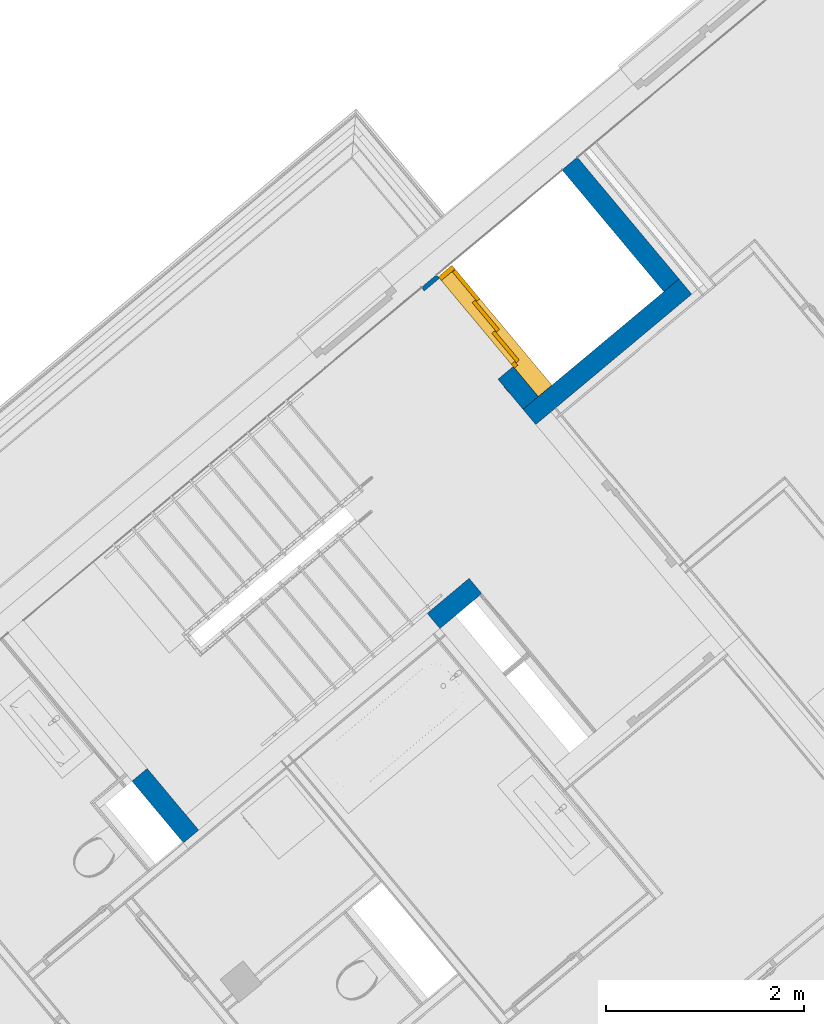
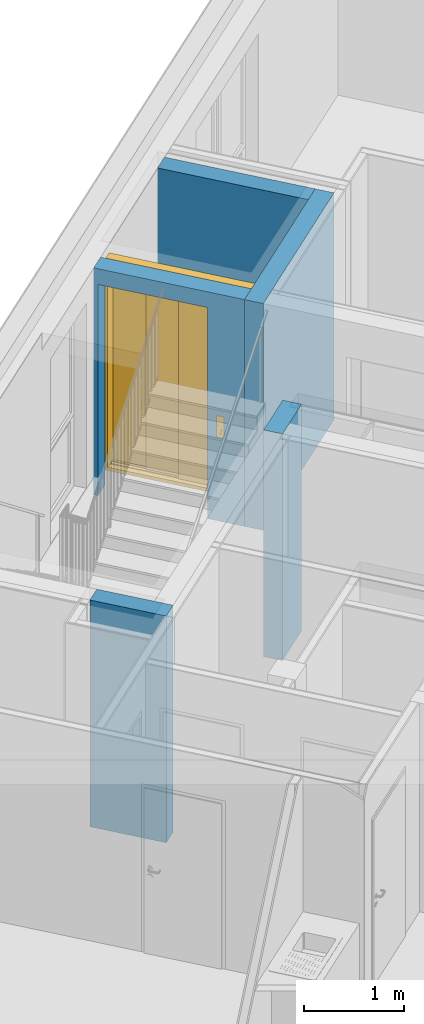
# One storey, part 1 of 50: 5 walls, 1 door, 1 opening.
"""IFC4 building model written with IfcOpenShell, lengths in metres."""

import ifcopenshell
import ifcopenshell.guid

model = None  # the IFC model being written
_history = None  # IfcOwnerHistory: only IFC2X3 demands one
_inside = {}  # id of a spatial element -> (the spatial element, [elements in it])
_under = {}  # id of a project, library or spatial element -> (it, [spatial elements below it])
_declared = {}  # id of a project -> (the project, [libraries it declares])
_typed = {}  # id of a type object -> (the type object, [elements of that type])
_made_of = {}  # id of a material, layer set ... -> (it, [elements and type objects made of it])


def new_model(schema):
    """Start an empty IFC model of exactly this schema.

    Asked for "IFC4X3", IfcOpenShell would pick the latest addendum, in which some entities
    have other attributes; the version numbers below select the first issue.
    IFC2X3 requires an IfcOwnerHistory on every rooted entity: one is made here for all.
    """
    global model, _history
    if schema == "IFC4X3":
        model = ifcopenshell.file(schema_version=(4, 3, 0, 0))
    else:
        model = ifcopenshell.file(schema=schema)
    _inside.clear()
    _under.clear()
    _declared.clear()
    _typed.clear()
    _made_of.clear()
    _history = None
    if model.schema == "IFC2X3":
        org = make("IfcOrganization", Name="unknown")
        user = make(
            "IfcPersonAndOrganization",
            ThePerson=make("IfcPerson", FamilyName="unknown"),
            TheOrganization=org,
        )
        app = make(
            "IfcApplication",
            ApplicationDeveloper=org,
            Version="unknown",
            ApplicationFullName="unknown",
            ApplicationIdentifier="unknown",
        )
        _history = make(
            "IfcOwnerHistory",
            OwningUser=user,
            OwningApplication=app,
            ChangeAction="ADDED",
            CreationDate=0,
        )
    return model


def make(cls, **values):
    """One entity of the class cls with the attributes given. An attribute that is None is left unset."""
    return model.create_entity(
        cls, **{name: value for name, value in values.items() if value is not None}
    )


def entity(cls, *values):
    """Any entity or typed value of the class cls, its attributes in the order of the schema. None: left unset."""
    e = model.create_entity(cls)
    for i, value in enumerate(values):
        if value is not None:
            e[i] = value
    return e


def rooted(cls, **values):
    """An entity with a GlobalId (a new one), such as an element, a storey or a relation."""
    return make(cls, GlobalId=ifcopenshell.guid.new(), OwnerHistory=_history, **values)


def si_unit(unit_type, name, prefix=None):
    """IfcSIUnit, for example si_unit("LENGTHUNIT", "METRE", prefix="MILLI")."""
    return make("IfcSIUnit", UnitType=unit_type, Prefix=prefix, Name=name)


def converted_unit(unit_type, name, factor, base, dimensions=None, offset=None):
    """IfcConversionBasedUnit, such as the inch: factor (a typed value) times the base unit."""
    return make(
        "IfcConversionBasedUnit"
        if offset is None
        else "IfcConversionBasedUnitWithOffset",
        ConversionOffset=offset,
        Dimensions=None
        if dimensions is None
        else entity("IfcDimensionalExponents", *dimensions),
        UnitType=unit_type,
        Name=name,
        ConversionFactor=make(
            "IfcMeasureWithUnit", ValueComponent=factor, UnitComponent=base
        ),
    )


def derived_unit(unit_type, elements):
    """IfcDerivedUnit: a product of units, each with its exponent."""
    return make(
        "IfcDerivedUnit",
        Elements=[
            make("IfcDerivedUnitElement", Unit=unit, Exponent=power)
            for unit, power in elements
        ],
        UnitType=unit_type,
    )


def assignment(units):
    """IfcUnitAssignment: the units of a project."""
    return None if units is None else make("IfcUnitAssignment", Units=units)


def point(xyz):
    """IfcCartesianPoint."""
    return None if xyz is None else make("IfcCartesianPoint", Coordinates=xyz)


def direction(xyz):
    """IfcDirection."""
    return None if xyz is None else make("IfcDirection", DirectionRatios=xyz)


def frame(location, z_axis=None, x_axis=None):
    """IfcAxis2Placement3D, a coordinate frame: its origin and axes. An axis left out is left unset."""
    return make(
        "IfcAxis2Placement3D",
        Location=point(location),
        Axis=direction(z_axis),
        RefDirection=direction(x_axis),
    )


def origin_with_axes():
    """The frame at (0, 0, 0) with the z axis (0, 0, 1) and the x axis (1, 0, 0) written out."""
    return frame((0.0, 0.0, 0.0), z_axis=(0.0, 0.0, 1.0), x_axis=(1.0, 0.0, 0.0))


def place(relative_to, where):
    """IfcLocalPlacement: puts the frame where relative to a parent placement (None: the world)."""
    return make(
        "IfcLocalPlacement", PlacementRelTo=relative_to, RelativePlacement=where
    )


def context(
    kind, dimensions, precision=None, world=None, true_north=None, identifier=None
):
    """IfcGeometricRepresentationContext, for example the 3D "Model" context."""
    return make(
        "IfcGeometricRepresentationContext",
        ContextIdentifier=identifier,
        ContextType=kind,
        CoordinateSpaceDimension=dimensions,
        Precision=precision,
        WorldCoordinateSystem=world,
        TrueNorth=true_north,
    )


def subcontext(parent, identifier, kind, view, scale=None):
    """IfcGeometricRepresentationSubContext, for example "Body" below "Model"."""
    return make(
        "IfcGeometricRepresentationSubContext",
        ContextIdentifier=identifier,
        ContextType=kind,
        ParentContext=parent,
        TargetScale=scale,
        TargetView=view,
    )


def project(units=None, contexts=None):
    """IfcProject with its units and contexts."""
    return rooted(
        "IfcProject",
        Name="project",
        RepresentationContexts=contexts,
        UnitsInContext=assignment(units),
    )


def spatial(cls, under=None, at=None, **own):
    """A site, building, storey or space (cls), placed at a placement, below another one or the project."""
    s = rooted(cls, ObjectPlacement=at, **own)
    if under is not None:
        _under.setdefault(under.id(), (under, []))[1].append(s)
    return s


def point_list(points):
    """IfcCartesianPointList2D or 3D."""
    cls = (
        "IfcCartesianPointList2D" if len(points[0]) == 2 else "IfcCartesianPointList3D"
    )
    return make(cls, CoordList=points)


def polygons(points, faces, closed=None, point_numbers=None):
    """IfcPolygonalFaceSet: a face is its outer loop, then its inner loops; points numbered from 1."""
    made = []
    for loops in faces:
        if len(loops) == 1:
            made.append(make("IfcIndexedPolygonalFace", CoordIndex=loops[0]))
        else:
            made.append(
                make(
                    "IfcIndexedPolygonalFaceWithVoids",
                    CoordIndex=loops[0],
                    InnerCoordIndices=loops[1:],
                )
            )
    return make(
        "IfcPolygonalFaceSet",
        Coordinates=point_list(points),
        Closed=closed,
        Faces=made,
        PnIndex=point_numbers,
    )


def shape(context_of_items, identifier, shape_type, items):
    """IfcShapeRepresentation: the items that make up one representation, for example the "Body"."""
    return make(
        "IfcShapeRepresentation",
        ContextOfItems=context_of_items,
        RepresentationIdentifier=identifier,
        RepresentationType=shape_type,
        Items=items,
    )


def source(mapping_origin, context_of_items, identifier, shape_type, items):
    """IfcRepresentationMap: a shape defined once, which mapped items show again and again."""
    return make(
        "IfcRepresentationMap",
        MappingOrigin=mapping_origin,
        MappedRepresentation=shape(context_of_items, identifier, shape_type, items),
    )


def transform(
    local_origin,
    x_axis=None,
    y_axis=None,
    z_axis=None,
    scale=None,
    scale2=None,
    scale3=None,
    uniform=True,
):
    """IfcCartesianTransformationOperator3D, or its non-uniform kind. x_axis, y_axis, z_axis: its Axis1, 2, 3."""
    if uniform:
        return make(
            "IfcCartesianTransformationOperator3D",
            Axis1=direction(x_axis),
            Axis2=direction(y_axis),
            LocalOrigin=point(local_origin),
            Scale=scale,
            Axis3=direction(z_axis),
        )
    return make(
        "IfcCartesianTransformationOperator3DnonUniform",
        Axis1=direction(x_axis),
        Axis2=direction(y_axis),
        LocalOrigin=point(local_origin),
        Scale=scale,
        Axis3=direction(z_axis),
        Scale2=scale2,
        Scale3=scale3,
    )


def mapped(mapping_source, mapping_target):
    """IfcMappedItem: shows the shape of a source again, moved by a transform."""
    return make(
        "IfcMappedItem", MappingSource=mapping_source, MappingTarget=mapping_target
    )


def material(Name=None, Category=None):
    """IfcMaterial."""
    return make("IfcMaterial", Name=Name, Category=Category)


def made_of(thing, what):
    """Note that an element or type object is made of a material, layer set ...; save() writes the relation."""
    if what is not None:
        _made_of.setdefault(what.id(), (what, []))[1].append(thing)
    return thing


def type_object(cls, material=None, **own):
    """A type object (cls), such as IfcWallType, which elements share."""
    return made_of(rooted(cls, **own), material)


def element(
    cls,
    number,
    at=None,
    inside=None,
    cuts=None,
    type_object=None,
    material=None,
    context=None,
    identifier="Body",
    shape_type=None,
    held_by="IfcProductDefinitionShape",
    body=None,
    shapes=None,
    **own,
):
    """One element of the class cls, such as IfcWall. Its Tag is "e" and its number.

    at: its placement. inside: the storey or other place that contains it. cuts: it is an
    opening in that element (IfcRelVoidsElement). A single representation is given by context,
    identifier, shape_type and body (its items); several are given by shapes. held_by: the class
    of the entity that holds the representations. save() writes the other relations.
    """
    e = rooted(cls, Tag="e%d" % number, ObjectPlacement=at, **own)
    if body is not None:
        shapes = [shape(context, identifier, shape_type, body)]
    if shapes is not None:
        e.Representation = make(held_by, Representations=shapes)
    if inside is not None:
        _inside.setdefault(inside.id(), (inside, []))[1].append(e)
    if cuts is not None:
        rooted(
            "IfcRelVoidsElement", RelatingBuildingElement=cuts, RelatedOpeningElement=e
        )
    if type_object is not None:
        _typed.setdefault(type_object.id(), (type_object, []))[1].append(e)
    return made_of(e, material)


def fill(opening, filler):
    """IfcRelFillsElement: the door or window that sits in an opening."""
    return rooted(
        "IfcRelFillsElement",
        RelatingOpeningElement=opening,
        RelatedBuildingElement=filler,
    )


def aggregate(whole, parts):
    """IfcRelAggregates: a whole, such as a stair, and the parts it consists of."""
    return rooted("IfcRelAggregates", RelatingObject=whole, RelatedObjects=parts)


def save(model, path):
    """Write the relations noted so far, then the file.

    IfcRelAggregates (storeys below a building ...), IfcRelContainedInSpatialStructure (elements
    in a storey), IfcRelDefinesByType, IfcRelAssociatesMaterial and IfcRelDeclares: one each for
    every whole, place, type object, material and project.
    """
    for whole, parts in _under.values():
        aggregate(whole, parts)
    for where, things in _inside.values():
        rooted(
            "IfcRelContainedInSpatialStructure",
            RelatedElements=things,
            RelatingStructure=where,
        )
    for kind, things in _typed.values():
        rooted("IfcRelDefinesByType", RelatedObjects=things, RelatingType=kind)
    for what, things in _made_of.values():
        rooted("IfcRelAssociatesMaterial", RelatedObjects=things, RelatingMaterial=what)
    for by, libraries in _declared.values():
        rooted("IfcRelDeclares", RelatingContext=by, RelatedDefinitions=libraries)
    model.write(path)


model = new_model("IFC4")

# Units and contexts
model_context = context("Model", 3, precision=1e-05, world=origin_with_axes(), true_north=direction((0.0, 1.0)))
body_context = subcontext(model_context, "Body", "Model", "MODEL_VIEW")
ifc_project = project(units=[si_unit("LENGTHUNIT", "METRE"), si_unit("AREAUNIT", "SQUARE_METRE"), si_unit("VOLUMEUNIT", "CUBIC_METRE"), converted_unit("PLANEANGLEUNIT", "DEGREE", entity("IfcPlaneAngleMeasure", 0.0174532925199), si_unit("PLANEANGLEUNIT", "RADIAN"), dimensions=[0, 0, 0, 0, 0, 0, 0]), converted_unit("TIMEUNIT", "Year", entity("IfcTimeMeasure", 31556926.0), si_unit("TIMEUNIT", "SECOND"), dimensions=[0, 0, 1, 0, 0, 0, 0]), si_unit("MASSUNIT", "GRAM", prefix="KILO"), si_unit("THERMODYNAMICTEMPERATUREUNIT", "DEGREE_CELSIUS"), si_unit("LUMINOUSINTENSITYUNIT", "LUMEN"), si_unit("ENERGYUNIT", "JOULE", prefix="MEGA"), derived_unit("THERMALCONDUCTANCEUNIT", [(si_unit("POWERUNIT", "WATT"), 1), (si_unit("LENGTHUNIT", "METRE"), -1), (si_unit("THERMODYNAMICTEMPERATUREUNIT", "KELVIN"), -1)]), derived_unit("SPECIFICHEATCAPACITYUNIT", [(si_unit("ENERGYUNIT", "JOULE"), 1), (si_unit("MASSUNIT", "GRAM", prefix="KILO"), -1), (si_unit("THERMODYNAMICTEMPERATUREUNIT", "KELVIN"), -1)]), derived_unit("MASSDENSITYUNIT", [(si_unit("MASSUNIT", "GRAM", prefix="KILO"), 1), (si_unit("VOLUMEUNIT", "CUBIC_METRE"), -1)])], contexts=[model_context])

# Site, building, storey
site_placement = place(None, frame((-0.00153261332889, -0.00661245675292, 0.0), z_axis=(0.0, 0.0, 1.0), x_axis=(1.0, 0.0, 0.0)))
site = spatial("IfcSite", under=ifc_project, at=site_placement, Name="Site", CompositionType="ELEMENT")
building_placement = place(site_placement, origin_with_axes())
building = spatial("IfcBuilding", under=site, at=building_placement, Name="Building", CompositionType="ELEMENT")
storey_placement = place(building_placement, frame((0.0, 0.0, 2.74), z_axis=(0.0, 0.0, 1.0), x_axis=(1.0, 0.0, 0.0)))
storey = spatial("IfcBuildingStorey", under=building, at=storey_placement, Name="OG1", CompositionType="ELEMENT", Elevation=2.74)

# Walls
ifc_material = material(Name="Stahlbeton Wand")
wall_type = type_object("IfcWallType", Name="Stahlbeton Wand 200", PredefinedType="NOTDEFINED")
wall_1_placement = place(storey_placement, frame((0.665404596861, 22.952518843, 0.0), z_axis=(0.0, 0.0, 1.0), x_axis=(-0.767365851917, -0.641209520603, 0.0)))
element("IfcWall", 1, at=wall_1_placement, inside=storey, type_object=wall_type, material=ifc_material, Name="Wand-003", PredefinedType="NOTDEFINED", context=body_context, shape_type="Tessellation", body=[
    polygons([(0.0, 0.2, 0.0), (0.55061386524, 0.2, 0.0), (0.55061386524, 0.0, 0.0), (0.0, 0.0, 0.0), (0.0, 0.2, 2.76), (0.55061386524, 0.2, 2.76), (0.55061386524, 0.0, 2.76), (0.0, 0.0, 2.76)], [[[1, 2, 3, 4]], [[5, 6, 2, 1]], [[3, 2, 6, 7]], [[4, 3, 7, 8]], [[5, 1, 4, 8]], [[8, 7, 6, 5]]], closed=True),
])
wall_2_placement = place(storey_placement, frame((-2.19006942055, 20.5664899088, 0.0), z_axis=(0.0, 0.0, 1.0), x_axis=(-0.641209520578, 0.767365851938, 0.0)))
element("IfcWall", 2, at=wall_2_placement, inside=storey, type_object=wall_type, material=ifc_material, Name="Wand-003", PredefinedType="NOTDEFINED", context=body_context, shape_type="Tessellation", body=[
    polygons([(-0.200000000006, 0.2, 0.0), (0.610381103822, 0.2, 0.0), (0.610381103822, 0.0, 0.0), (-0.2, 0.0, 0.0), (-0.200000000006, 0.2, 2.76), (0.610381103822, 0.2, 2.76), (0.610381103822, 0.0, 2.76), (-0.2, 0.0, 2.76)], [[[1, 2, 3, 4]], [[5, 6, 2, 1]], [[3, 2, 6, 7]], [[4, 3, 7, 8]], [[5, 1, 4, 8]], [[8, 7, 6, 5]]], closed=True),
])
wall_3_placement = place(storey_placement, frame((1.36278827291, 24.785276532, 0.0), z_axis=(0.0, 0.0, 1.0), x_axis=(0.767365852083, 0.641209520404, 0.0)))
element("IfcWall", 3, at=wall_3_placement, inside=storey, type_object=wall_type, material=ifc_material, Name="Wand-003", PredefinedType="NOTDEFINED", context=body_context, shape_type="Tessellation", body=[
    polygons([(1.85049975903, -0.2, 2.76), (1.85049975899, 0.0, 2.76), (-0.200000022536, 0.0, 2.76), (-0.200094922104, -0.2, 2.76), (1.85049975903, -0.2, 0.0), (1.85049975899, 0.0, 0.0), (-0.200000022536, 0.0, 0.0), (-0.200094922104, -0.2, 0.0)], [[[1, 2, 3, 4]], [[2, 1, 5, 6]], [[2, 6, 7, 3]], [[8, 4, 3, 7]], [[5, 1, 4, 8]], [[6, 5, 8, 7]]], closed=True),
])
wall_4_placement = place(storey_placement, frame((2.62932542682, 25.8435926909, 0.0), z_axis=(0.0, 0.0, 1.0), x_axis=(-0.641209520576, 0.767365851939, 0.0)))
element("IfcWall", 4, at=wall_4_placement, inside=storey, type_object=wall_type, material=ifc_material, Name="Wand-003", PredefinedType="NOTDEFINED", context=body_context, shape_type="Tessellation", body=[
    polygons([(1.60114424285, -0.2, 2.76), (1.60114424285, 0.0, 2.76), (0.0, 0.0, 2.76), (0.0, -0.2, 2.76), (1.60114424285, -0.2, 0.0), (1.60114424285, 0.0, 0.0), (0.0, 0.0, 0.0), (0.0, -0.2, 0.0)], [[[1, 2, 3, 4]], [[2, 1, 5, 6]], [[2, 6, 7, 3]], [[8, 4, 3, 7]], [[5, 1, 4, 8]], [[6, 5, 8, 7]]], closed=True),
])

# Wall, opening, door
wall_5_placement = place(storey_placement, frame((1.36278827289, 24.785276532, 0.0), z_axis=(0.0, 0.0, 1.0), x_axis=(-0.640845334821, 0.767670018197, 0.0)))
wall_5 = element("IfcWall", 5, at=wall_5_placement, inside=storey, type_object=wall_type, material=ifc_material, Name="Wand-003", PredefinedType="NOTDEFINED", context=body_context, shape_type="Tessellation", body=[
    polygons([(1.55499976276, 0.0, 2.57), (1.55499976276, 9.38576505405e-09, 0.22), (1.55499976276, 9.38576505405e-09, 0.0), (1.60114442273, 0.0, 0.0), (1.60114442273, 0.0, 2.76), (0.0, 0.0, 2.76), (0.0, 0.0, 0.0), (0.394999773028, 4.1292480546e-10, 0.0), (0.394999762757, 4.1292480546e-10, 0.22), (0.394999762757, 0.0, 2.57), (1.55499976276, 0.2, 2.57), (1.55499976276, 0.2, 0.22), (1.55499976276, 0.2, 0.0), (1.60104952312, 0.2, 0.0), (1.60104952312, 0.2, 2.76), (-9.48995682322e-05, 0.2, 2.76), (-9.48995682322e-05, 0.2, 0.0), (0.394999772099, 0.2, 0.0), (0.394999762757, 0.2, 0.22), (0.394999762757, 0.2, 2.57)], [[[1, 2, 3, 4, 5, 6, 7, 8, 9, 10]], [[2, 1, 11, 12]], [[2, 12, 13, 3]], [[3, 13, 14, 4]], [[4, 14, 15, 5]], [[5, 15, 16, 6]], [[16, 17, 7, 6]], [[18, 8, 7, 17]], [[19, 9, 8, 18]], [[10, 9, 19, 20]], [[1, 10, 20, 11]], [[20, 19, 18, 17, 16, 15, 14, 13, 12, 11]]], closed=True),
])
opening_placement = place(wall_5_placement, frame((0.974999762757, 0.0, 0.22), z_axis=(0.0, 0.0, 1.0), x_axis=(1.0, 0.0, 0.0)))
opening = element("IfcOpeningElement", 6, at=opening_placement, cuts=wall_5, Name="Tür-003", context=body_context, identifier="Reference", shape_type="Tessellation", body=[
    polygons([(0.58, 1.19285789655, 2.35), (0.58, 1.19285789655, -0.22), (-0.58, 1.19285789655, -0.22), (-0.58, 1.19285789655, 2.35), (0.58, -0.992857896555, 2.35), (0.58, -0.992857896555, -0.22), (-0.58, -0.992857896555, -0.22), (-0.58, -0.992857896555, 2.35)], [[[1, 2, 3, 4]], [[5, 6, 2, 1]], [[6, 7, 3, 2]], [[7, 8, 4, 3]], [[8, 5, 1, 4]], [[7, 6, 5, 8]]], closed=True),
])
door_type = type_object("IfcDoorType", Name="Teleskoptür 26", OperationType="DOUBLE_DOOR_SLIDING", PredefinedType="NOTDEFINED")
shared_shape = source(origin_with_axes(), body_context, "Body", "Tessellation", [
    polygons([(0.975, 0.135, 2.2), (-0.6, 0.135, 2.2), (-0.6, 0.135, 2.238), (0.975, 0.135, 2.238), (0.975, 0.0, 2.2), (-0.6, 0.0, 2.2), (-0.6, 0.0, 2.48), (-0.6, 0.18, 2.48), (-0.6, 0.18, 2.477), (-0.6, 0.003, 2.477), (-0.6, 0.003, 2.203), (-0.6, 0.132, 2.203), (-0.6, 0.132, 2.238), (0.975, 0.132, 2.238), (0.975, 0.132, 2.203), (0.975, 0.003, 2.203), (0.975, 0.003, 2.477), (0.975, 0.18, 2.477), (0.975, 0.18, 2.48), (0.975, 0.0, 2.48)], [[[1, 2, 3, 4]], [[5, 6, 2, 1]], [[2, 6, 7, 8, 9, 10, 11, 12, 13, 3]], [[4, 3, 13, 14]], [[1, 4, 14, 15, 16, 17, 18, 19, 20, 5]], [[20, 7, 6, 5]], [[19, 8, 7, 20]], [[18, 9, 8, 19]], [[17, 10, 9, 18]], [[16, 11, 10, 17]], [[15, 12, 11, 16]], [[14, 13, 12, 15]]], closed=True),
    polygons([(0.975, 0.05, 2.203), (-0.6, 0.05, 2.203), (-0.6, 0.055, 2.203), (0.975, 0.055, 2.203), (0.975, 0.05, 2.44), (-0.6, 0.05, 2.44), (-0.6, 0.055, 2.44), (0.975, 0.055, 2.44)], [[[1, 2, 3, 4]], [[5, 6, 2, 1]], [[2, 6, 7, 3]], [[4, 3, 7, 8]], [[1, 4, 8, 5]], [[8, 7, 6, 5]]], closed=True),
    polygons([(0.975, 0.05, 2.43), (-0.6, 0.05, 2.43), (-0.6, 0.04, 2.43), (0.975, 0.04, 2.43), (0.975, 0.05, 2.37), (-0.6, 0.05, 2.37), (-0.6, 0.04, 2.37), (0.975, 0.04, 2.37)], [[[1, 2, 3, 4]], [[5, 6, 2, 1]], [[2, 6, 7, 3]], [[4, 3, 7, 8]], [[1, 4, 8, 5]], [[8, 7, 6, 5]]], closed=True),
    polygons([(0.975, 0.05, 2.3), (-0.6, 0.05, 2.3), (-0.6, 0.04, 2.3), (0.975, 0.04, 2.3), (0.975, 0.05, 2.26), (-0.6, 0.05, 2.26), (-0.6, 0.04, 2.26), (0.975, 0.04, 2.26)], [[[1, 2, 3, 4]], [[5, 6, 2, 1]], [[2, 6, 7, 3]], [[4, 3, 7, 8]], [[1, 4, 8, 5]], [[8, 7, 6, 5]]], closed=True),
    polygons([(0.975, 0.05, 2.37), (-0.6, 0.05, 2.37), (-0.6, 0.03, 2.37), (0.975, 0.03, 2.37), (0.975, 0.05, 2.3), (-0.6, 0.05, 2.3), (-0.6, 0.03, 2.3), (0.975, 0.03, 2.3)], [[[1, 2, 3, 4]], [[5, 6, 2, 1]], [[2, 6, 7, 3]], [[4, 3, 7, 8]], [[1, 4, 8, 5]], [[8, 7, 6, 5]]], closed=True),
    polygons([(0.975, 0.095, 2.203), (-0.6, 0.095, 2.203), (-0.6, 0.1, 2.203), (0.975, 0.1, 2.203), (0.975, 0.095, 2.44), (-0.6, 0.095, 2.44), (-0.6, 0.1, 2.44), (0.975, 0.1, 2.44)], [[[1, 2, 3, 4]], [[5, 6, 2, 1]], [[2, 6, 7, 3]], [[4, 3, 7, 8]], [[1, 4, 8, 5]], [[8, 7, 6, 5]]], closed=True),
    polygons([(0.975, 0.095, 2.43), (-0.6, 0.095, 2.43), (-0.6, 0.085, 2.43), (0.975, 0.085, 2.43), (0.975, 0.095, 2.37), (-0.6, 0.095, 2.37), (-0.6, 0.085, 2.37), (0.975, 0.085, 2.37)], [[[1, 2, 3, 4]], [[5, 6, 2, 1]], [[2, 6, 7, 3]], [[4, 3, 7, 8]], [[1, 4, 8, 5]], [[8, 7, 6, 5]]], closed=True),
    polygons([(0.975, 0.095, 2.3), (-0.6, 0.095, 2.3), (-0.6, 0.085, 2.3), (0.975, 0.085, 2.3), (0.975, 0.095, 2.26), (-0.6, 0.095, 2.26), (-0.6, 0.085, 2.26), (0.975, 0.085, 2.26)], [[[1, 2, 3, 4]], [[5, 6, 2, 1]], [[2, 6, 7, 3]], [[4, 3, 7, 8]], [[1, 4, 8, 5]], [[8, 7, 6, 5]]], closed=True),
    polygons([(0.975, 0.095, 2.37), (-0.6, 0.095, 2.37), (-0.6, 0.075, 2.37), (0.975, 0.075, 2.37), (0.975, 0.095, 2.3), (-0.6, 0.095, 2.3), (-0.6, 0.075, 2.3), (0.975, 0.075, 2.3)], [[[1, 2, 3, 4]], [[5, 6, 2, 1]], [[2, 6, 7, 3]], [[4, 3, 7, 8]], [[1, 4, 8, 5]], [[8, 7, 6, 5]]], closed=True),
    polygons([(0.975, 0.14, 2.203), (-0.6, 0.14, 2.203), (-0.6, 0.145, 2.203), (0.975, 0.145, 2.203), (0.975, 0.14, 2.44), (-0.6, 0.14, 2.44), (-0.6, 0.145, 2.44), (0.975, 0.145, 2.44)], [[[1, 2, 3, 4]], [[5, 6, 2, 1]], [[2, 6, 7, 3]], [[4, 3, 7, 8]], [[1, 4, 8, 5]], [[8, 7, 6, 5]]], closed=True),
    polygons([(0.975, 0.14, 2.43), (-0.6, 0.14, 2.43), (-0.6, 0.13, 2.43), (0.975, 0.13, 2.43), (0.975, 0.14, 2.37), (-0.6, 0.14, 2.37), (-0.6, 0.13, 2.37), (0.975, 0.13, 2.37)], [[[1, 2, 3, 4]], [[5, 6, 2, 1]], [[2, 6, 7, 3]], [[4, 3, 7, 8]], [[1, 4, 8, 5]], [[8, 7, 6, 5]]], closed=True),
    polygons([(0.975, 0.14, 2.3), (-0.6, 0.14, 2.3), (-0.6, 0.13, 2.3), (0.975, 0.13, 2.3), (0.975, 0.14, 2.26), (-0.6, 0.14, 2.26), (-0.6, 0.13, 2.26), (0.975, 0.13, 2.26)], [[[1, 2, 3, 4]], [[5, 6, 2, 1]], [[2, 6, 7, 3]], [[4, 3, 7, 8]], [[1, 4, 8, 5]], [[8, 7, 6, 5]]], closed=True),
    polygons([(0.975, 0.14, 2.37), (-0.6, 0.14, 2.37), (-0.6, 0.12, 2.37), (0.975, 0.12, 2.37), (0.975, 0.14, 2.3), (-0.6, 0.14, 2.3), (-0.6, 0.12, 2.3), (0.975, 0.12, 2.3)], [[[1, 2, 3, 4]], [[5, 6, 2, 1]], [[2, 6, 7, 3]], [[4, 3, 7, 8]], [[1, 4, 8, 5]], [[8, 7, 6, 5]]], closed=True),
    polygons([(0.975, 0.0, 0.0), (-0.6, 0.0, 0.0), (-0.6, 0.0, -0.04), (0.975, 0.0, -0.04), (0.975, 0.065, 0.0), (-0.6, 0.065, 0.0), (-0.6, 0.065, -0.01), (-0.6, 0.075, -0.01), (-0.6, 0.075, 0.0), (-0.6, 0.11, 0.0), (-0.6, 0.11, -0.01), (-0.6, 0.12, -0.01), (-0.6, 0.12, 0.0), (-0.6, 0.155, 0.0), (-0.6, 0.155, -0.01), (-0.6, 0.165, -0.01), (-0.6, 0.165, 0.0), (-0.6, 0.18, 0.0), (-0.6, 0.18, -0.04), (0.975, 0.18, -0.04), (0.975, 0.18, 0.0), (0.975, 0.165, 0.0), (0.975, 0.165, -0.01), (0.975, 0.155, -0.01), (0.975, 0.155, 0.0), (0.975, 0.12, 0.0), (0.975, 0.12, -0.01), (0.975, 0.11, -0.01), (0.975, 0.11, 0.0), (0.975, 0.075, 0.0), (0.975, 0.075, -0.01), (0.975, 0.065, -0.01)], [[[1, 2, 3, 4]], [[5, 6, 2, 1]], [[2, 6, 7, 8, 9, 10, 11, 12, 13, 14, 15, 16, 17, 18, 19, 3]], [[4, 3, 19, 20]], [[1, 4, 20, 21, 22, 23, 24, 25, 26, 27, 28, 29, 30, 31, 32, 5]], [[32, 7, 6, 5]], [[31, 8, 7, 32]], [[30, 9, 8, 31]], [[29, 10, 9, 30]], [[28, 11, 10, 29]], [[27, 12, 11, 28]], [[26, 13, 12, 27]], [[25, 14, 13, 26]], [[24, 15, 14, 25]], [[23, 16, 15, 24]], [[22, 17, 16, 23]], [[21, 18, 17, 22]], [[20, 19, 18, 21]]], closed=True),
    polygons([(0.55, 0.0, 0.0), (0.55, 0.0, 2.2), (0.55, 0.045, 2.2), (0.55, 0.045, 0.0), (0.6, 0.0, 0.0), (0.6, 0.0, 2.2), (0.6, 0.045, 2.2), (0.6, 0.045, 0.0)], [[[1, 2, 3, 4]], [[5, 6, 2, 1]], [[2, 6, 7, 3]], [[4, 3, 7, 8]], [[1, 4, 8, 5]], [[8, 7, 6, 5]]], closed=True),
    polygons([(-0.6, 0.0, 0.0), (-0.6, 0.0, 2.2), (-0.6, 0.18, 2.2), (-0.6, 0.18, 0.0), (-0.55, 0.0, 0.0), (-0.55, 0.0, 2.2), (-0.55, 0.18, 2.2), (-0.55, 0.18, 0.0)], [[[1, 2, 3, 4]], [[5, 6, 2, 1]], [[2, 6, 7, 3]], [[4, 3, 7, 8]], [[1, 4, 8, 5]], [[8, 7, 6, 5]]], closed=True),
    polygons([(0.68, -0.2, 0.8), (0.76, -0.2, 0.8), (0.76, -0.203, 0.8), (0.68, -0.203, 0.8), (0.68, -0.2, 1.06), (0.76, -0.2, 1.06), (0.69, -0.2, 1.03), (0.69, -0.2, 0.94), (0.75, -0.2, 0.94), (0.75, -0.2, 1.03), (0.71, -0.2, 0.84), (0.73, -0.2, 0.84), (0.73, -0.2, 0.86), (0.71, -0.2, 0.86), (0.71, -0.2, 0.88), (0.73, -0.2, 0.88), (0.73, -0.2, 0.9), (0.71, -0.2, 0.9), (0.76, -0.203, 1.06), (0.68, -0.203, 1.06), (0.69, -0.203, 1.03), (0.75, -0.203, 1.03), (0.75, -0.203, 0.94), (0.69, -0.203, 0.94), (0.71, -0.203, 0.84), (0.71, -0.203, 0.86), (0.73, -0.203, 0.86), (0.73, -0.203, 0.84), (0.71, -0.203, 0.88), (0.71, -0.203, 0.9), (0.73, -0.203, 0.9), (0.73, -0.203, 0.88)], [[[1, 2, 3, 4]], [[1, 5, 6, 2], [7, 8, 9, 10], [11, 12, 13, 14], [15, 16, 17, 18]], [[2, 6, 19, 3]], [[4, 3, 19, 20], [21, 22, 23, 24], [25, 26, 27, 28], [29, 30, 31, 32]], [[5, 1, 4, 20]], [[6, 5, 20, 19]], [[8, 7, 21, 24]], [[9, 8, 24, 23]], [[10, 9, 23, 22]], [[7, 10, 22, 21]], [[12, 11, 25, 28]], [[13, 12, 28, 27]], [[14, 13, 27, 26]], [[11, 14, 26, 25]], [[16, 15, 29, 32]], [[17, 16, 32, 31]], [[18, 17, 31, 30]], [[15, 18, 30, 29]]], closed=True),
    polygons([(0.69, -0.2, 0.94), (0.75, -0.2, 0.94), (0.75, -0.2025, 0.94), (0.69, -0.2025, 0.94), (0.69, -0.2, 1.03), (0.75, -0.2, 1.03), (0.75, -0.2025, 1.03), (0.69, -0.2025, 1.03)], [[[1, 2, 3, 4]], [[1, 5, 6, 2]], [[2, 6, 7, 3]], [[4, 3, 7, 8]], [[5, 1, 4, 8]], [[6, 5, 8, 7]]], closed=True),
    polygons([(0.704, -0.203, 1.005), (0.71, -0.203, 1.021), (0.716, -0.203, 1.005)], [[[1, 2, 3]]], closed=False),
    polygons([(0.73, -0.203, 1.005), (0.724, -0.203, 1.021), (0.736, -0.203, 1.021)], [[[1, 2, 3]]], closed=False),
    polygons([(0.717272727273, -0.2035, 0.982), (0.717272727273, -0.2035, 0.971636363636), (0.715909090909, -0.2035, 0.970272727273), (0.714545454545, -0.2035, 0.971636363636), (0.714545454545, -0.2035, 0.982), (0.715909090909, -0.2035, 0.983363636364)], [[[1, 2, 3, 4, 5, 6]]], closed=False),
    polygons([(0.717272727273, -0.2035, 0.968363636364), (0.717272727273, -0.2035, 0.958), (0.715909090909, -0.2035, 0.956636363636), (0.714545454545, -0.2035, 0.958), (0.714545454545, -0.2035, 0.968363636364), (0.715909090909, -0.2035, 0.969727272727)], [[[1, 2, 3, 4, 5, 6]]], closed=False),
    polygons([(0.736090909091, -0.2035, 0.982272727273), (0.725727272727, -0.2035, 0.982272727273), (0.724363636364, -0.2035, 0.983636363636), (0.725727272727, -0.2035, 0.985), (0.736090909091, -0.2035, 0.985), (0.737454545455, -0.2035, 0.983636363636)], [[[1, 2, 3, 4, 5, 6]]], closed=False),
    polygons([(0.739090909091, -0.2035, 0.982), (0.739090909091, -0.2035, 0.971636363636), (0.737727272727, -0.2035, 0.970272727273), (0.736363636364, -0.2035, 0.971636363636), (0.736363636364, -0.2035, 0.982), (0.737727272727, -0.2035, 0.983363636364)], [[[1, 2, 3, 4, 5, 6]]], closed=False),
    polygons([(0.736090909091, -0.2035, 0.968636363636), (0.725727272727, -0.2035, 0.968636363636), (0.724363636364, -0.2035, 0.97), (0.725727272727, -0.2035, 0.971363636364), (0.736090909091, -0.2035, 0.971363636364), (0.737454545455, -0.2035, 0.97)], [[[1, 2, 3, 4, 5, 6]]], closed=False),
    polygons([(0.725454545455, -0.2035, 0.968363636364), (0.725454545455, -0.2035, 0.958), (0.724090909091, -0.2035, 0.956636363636), (0.722727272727, -0.2035, 0.958), (0.722727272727, -0.2035, 0.968363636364), (0.724090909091, -0.2035, 0.969727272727)], [[[1, 2, 3, 4, 5, 6]]], closed=False),
    polygons([(0.736090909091, -0.2035, 0.955), (0.725727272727, -0.2035, 0.955), (0.724363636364, -0.2035, 0.956363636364), (0.725727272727, -0.2035, 0.957727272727), (0.736090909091, -0.2035, 0.957727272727), (0.737454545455, -0.2035, 0.956363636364)], [[[1, 2, 3, 4, 5, 6]]], closed=False),
    polygons([(0.73, -0.2, 0.84), (0.71, -0.2, 0.84), (0.71, -0.2, 0.86), (0.73, -0.2, 0.86), (0.730000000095, -0.2015, 0.83999999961), (0.70999999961, -0.2015, 0.83999999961), (0.70999999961, -0.2015, 0.860000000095), (0.730000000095, -0.2015, 0.860000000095), (0.728599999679, -0.202900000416, 0.841400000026), (0.711400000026, -0.202900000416, 0.841400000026), (0.711400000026, -0.202900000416, 0.858599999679), (0.728599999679, -0.202900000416, 0.858599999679)], [[[1, 2, 3, 4]], [[2, 1, 5, 6]], [[3, 2, 6, 7]], [[4, 3, 7, 8]], [[1, 4, 8, 5]], [[6, 5, 9, 10]], [[7, 6, 10, 11]], [[8, 7, 11, 12]], [[5, 8, 12, 9]], [[11, 10, 9, 12]]], closed=True),
    polygons([(0.725, -0.203, 0.855), (0.72, -0.203, 0.844), (0.715, -0.203, 0.855)], [[[1, 2, 3]]], closed=False),
    polygons([(0.73, -0.2, 0.88), (0.71, -0.2, 0.88), (0.71, -0.2, 0.9), (0.73, -0.2, 0.9), (0.730000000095, -0.2015, 0.87999999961), (0.70999999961, -0.2015, 0.87999999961), (0.70999999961, -0.2015, 0.900000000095), (0.730000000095, -0.2015, 0.900000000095), (0.728599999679, -0.202900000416, 0.881400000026), (0.711400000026, -0.202900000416, 0.881400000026), (0.711400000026, -0.202900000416, 0.898599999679), (0.728599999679, -0.202900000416, 0.898599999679)], [[[1, 2, 3, 4]], [[2, 1, 5, 6]], [[3, 2, 6, 7]], [[4, 3, 7, 8]], [[1, 4, 8, 5]], [[6, 5, 9, 10]], [[7, 6, 10, 11]], [[8, 7, 11, 12]], [[5, 8, 12, 9]], [[11, 10, 9, 12]]], closed=True),
    polygons([(0.725, -0.203, 0.885), (0.715, -0.203, 0.885), (0.72, -0.203, 0.896)], [[[1, 2, 3]]], closed=False),
    polygons([(-0.16, 0.14, 0.003), (-0.545, 0.14, 0.003), (-0.545, 0.18, 0.003), (-0.16, 0.18, 0.003), (-0.16, 0.14, 2.2), (-0.545, 0.14, 2.2), (-0.545, 0.18, 2.2), (-0.16, 0.18, 2.2)], [[[1, 2, 3, 4]], [[1, 5, 6, 2]], [[2, 6, 7, 3]], [[4, 3, 7, 8]], [[5, 1, 4, 8]], [[6, 5, 8, 7]]], closed=True),
    polygons([(0.205, 0.095, 0.003), (-0.18, 0.095, 0.003), (-0.18, 0.135, 0.003), (0.205, 0.135, 0.003), (0.205, 0.095, 2.2), (-0.18, 0.095, 2.2), (-0.18, 0.135, 2.2), (0.205, 0.135, 2.2)], [[[1, 2, 3, 4]], [[1, 5, 6, 2]], [[2, 6, 7, 3]], [[4, 3, 7, 8]], [[5, 1, 4, 8]], [[6, 5, 8, 7]]], closed=True),
    polygons([(0.57, 0.05, 0.003), (0.185, 0.05, 0.003), (0.185, 0.09, 0.003), (0.57, 0.09, 0.003), (0.57, 0.05, 2.2), (0.185, 0.05, 2.2), (0.185, 0.09, 2.2), (0.57, 0.09, 2.2)], [[[1, 2, 3, 4]], [[1, 5, 6, 2]], [[2, 6, 7, 3]], [[4, 3, 7, 8]], [[5, 1, 4, 8]], [[6, 5, 8, 7]]], closed=True),
])
door_placement = place(opening_placement, frame((0.55, 0.0, 0.0), z_axis=(0.0, 0.0, 1.0), x_axis=(-1.0, 0.0, 0.0)))
door = element("IfcDoor", 7, at=door_placement, inside=storey, type_object=door_type, Name="Tür-003", OverallHeight=2.57, OverallWidth=1.16, PredefinedType="NOTDEFINED", context=body_context, shape_type="MappedRepresentation", body=[
    mapped(shared_shape, transform((0.55, 0.0, 0.0))),
])
fill(opening, door)

save(model, "model.ifc")
